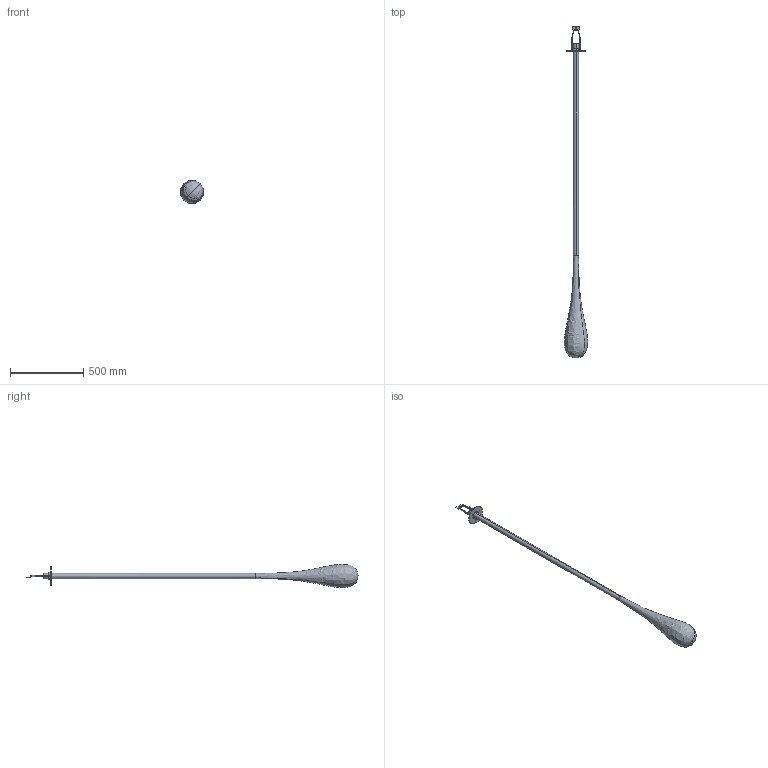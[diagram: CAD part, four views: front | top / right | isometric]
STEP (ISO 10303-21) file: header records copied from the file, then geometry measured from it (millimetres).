
FILE_DESCRIPTION (( 'STEP AP203' ), '1' );
FILE_NAME ('GLO_inc_STEP.STEP', '2016-01-13T10:44:14', ( 'admin' ), ( '' ), 'SwSTEP 2.0', 'SolidWorks 2015', '' );
FILE_SCHEMA (( 'CONFIG_CONTROL_DESIGN' ));
Length unit declared in the file: millimetre
Products named in the file (2): GLO_inc_STEP
Bounding box: 158.53 x 2271 x 158.53 mm (x, y, z)
Volume: 1673715.4 mm3; surface area: 697490.7 mm2
Topology: 5 solids, 5 shells, 79 faces, 210 edges, 138 vertices
Faces by surface type: cylinder 44, plane 31, bspline 4
Entity records: 3615 total; most frequent: CARTESIAN_POINT 1445, DIRECTION 416, ORIENTED_EDGE 412, EDGE_CURVE 206, AXIS2_PLACEMENT_3D 153, VERTEX_POINT 138, LINE 110, VECTOR 110
